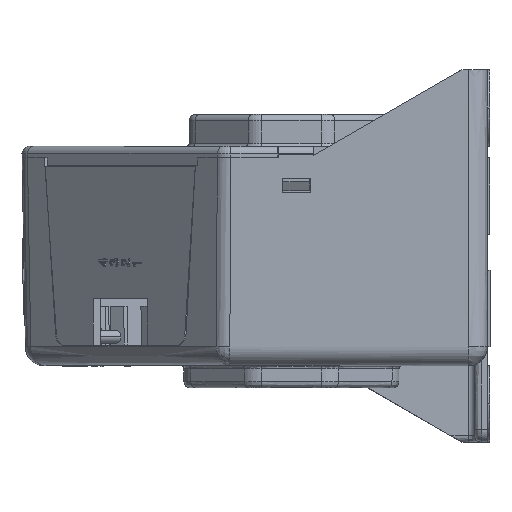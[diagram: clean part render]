
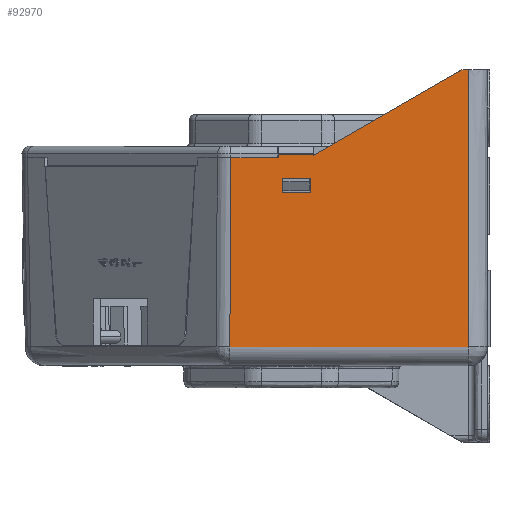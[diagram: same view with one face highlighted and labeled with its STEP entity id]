
A CAD part, left-side view. The second image highlights one B-rep face of the part: STEP entity #92970.
In plain terms, the highlighted planar face has unit normal (-1, 0, -0.018) as drawn and (0.707, -0.017, 0.707) by its records, which use the part's own axes.
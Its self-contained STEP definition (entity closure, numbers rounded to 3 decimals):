
#55170=CARTESIAN_POINT('',(21.608,15.4,
-1.333));
#55180=DIRECTION('',(0.,1.,0.));
#55190=DIRECTION('',(-0.707,0.,
-0.707));
#55200=AXIS2_PLACEMENT_3D('',#55170,#55180,#55190);
#55210=CYLINDRICAL_SURFACE('',#55200,3.);
#55410=CARTESIAN_POINT('',(21.608,15.4,
-1.333));
#55420=DIRECTION('',(0.,1.,0.));
#55430=DIRECTION('',(-0.707,0.,
-0.707));
#55440=AXIS2_PLACEMENT_3D('',#55410,#55420,#55430);
#55450=CIRCLE('',#55440,3.);
#57240=CARTESIAN_POINT('',(23.729,15.4,
0.789));
#57250=VERTEX_POINT('',#57240);
#57280=CARTESIAN_POINT('',(23.208,-17.252,
0.504));
#57290=DIRECTION('',(-0.016,-1.,
-0.009));
#57300=VECTOR('',#57290,1.);
#57310=LINE('',#57280,#57300);
#57320=CARTESIAN_POINT('',(23.256,-14.252,
0.53));
#57330=VERTEX_POINT('',#57320);
#57340=EDGE_CURVE('',#57250,#57330,#57310,.T.);
#89670=CARTESIAN_POINT('',(29.045,15.979,
-4.513));
#89680=VERTEX_POINT('',#89670);
#89710=CARTESIAN_POINT('',(28.635,-17.2,
-4.922));
#89720=DIRECTION('',(-0.012,-1.,
-0.012));
#89730=VECTOR('',#89720,1.);
#89740=LINE('',#89710,#89730);
#89750=CARTESIAN_POINT('',(29.038,15.4,
-4.52));
#89760=VERTEX_POINT('',#89750);
#89770=EDGE_CURVE('',#89680,#89760,#89740,.T.);
#90240=CARTESIAN_POINT('',(32.524,-17.2,
-8.811));
#90250=DIRECTION('',(0.012,1.,
0.012));
#90260=VECTOR('',#90250,1.);
#90270=LINE('',#90240,#90260);
#90280=CARTESIAN_POINT('',(32.931,15.777,
-8.404));
#90290=VERTEX_POINT('',#90280);
#90300=CARTESIAN_POINT('',(32.934,15.979,
-8.402));
#90310=VERTEX_POINT('',#90300);
#90320=EDGE_CURVE('',#90290,#90310,#90270,.T.);
#91510=CARTESIAN_POINT('',(32.498,12.2,
-8.06));
#91520=VERTEX_POINT('',#91510);
#91550=CARTESIAN_POINT('',(32.135,-17.2,
-8.423));
#91560=DIRECTION('',(0.012,1.,
0.012));
#91570=VECTOR('',#91560,1.);
#91580=LINE('',#91550,#91570);
#91590=CARTESIAN_POINT('',(32.471,10.,
-8.087));
#91600=VERTEX_POINT('',#91590);
#91610=EDGE_CURVE('',#91600,#91520,#91580,.T.);
#91730=CARTESIAN_POINT('',(45.711,12.172,
-21.273));
#91740=DIRECTION('',(0.707,-0.017,
0.707));
#91750=DIRECTION('',(0.707,0.,
-0.707));
#91760=AXIS2_PLACEMENT_3D('',#91730,#91740,#91750);
#91770=PLANE('',#91760);
#91780=CARTESIAN_POINT('',(30.086,-14.252,
-6.3));
#91790=DIRECTION('',(0.707,0.,
-0.707));
#91800=VECTOR('',#91790,1.);
#91810=LINE('',#91780,#91800);
#91820=CARTESIAN_POINT('',(49.709,-14.252,
-25.923));
#91830=VERTEX_POINT('',#91820);
#91840=EDGE_CURVE('',#57330,#91830,#91810,.T.);
#91850=ORIENTED_EDGE('',*,*,#91840,.T.);
#91860=ORIENTED_EDGE('',*,*,#57340,.T.);
#91870=CARTESIAN_POINT('',(23.729,15.4,
0.789));
#91880=VERTEX_POINT('',#91870);
#91890=EDGE_CURVE('',#57250,#91880,#55450,.T.);
#91900=ORIENTED_EDGE('',*,*,#91890,.F.);
#91910=CARTESIAN_POINT('',(23.729,15.4,
0.789));
#91920=CARTESIAN_POINT('',(23.729,15.4,
0.789));
#91930=CARTESIAN_POINT('',(23.729,15.4,
0.789));
#91940=CARTESIAN_POINT('',(23.729,15.4,
0.789));
#91950=CARTESIAN_POINT('',(23.729,15.4,
0.789));
#91960=CARTESIAN_POINT('',(23.729,15.4,
0.789));
#91970=CARTESIAN_POINT('',(23.729,15.4,
0.789));
#91980=CARTESIAN_POINT('',(23.729,15.4,
0.789));
#91990=CARTESIAN_POINT('',(23.729,15.4,
0.789));
#92000=CARTESIAN_POINT('',(23.729,15.4,
0.789));
#92010=CARTESIAN_POINT('',(23.729,15.4,
0.789));
#92020=CARTESIAN_POINT('',(23.729,15.4,
0.789));
#92030=CARTESIAN_POINT('',(23.729,15.4,
0.789));
#92040=B_SPLINE_CURVE_WITH_KNOTS('',3,(#91910,#91920,#91930,#91940,
#91950,#91960,#91970,#91980,#91990,#92000,#92010,#92020,#92030),
.UNSPECIFIED.,.F.,.F.,(4,3,3,3,4),(0.,0.,
0.,0.,0.),
.UNSPECIFIED.);
#92050=SURFACE_CURVE('',#92040,(#91770,#55210),.CURVE_3D.);
#92060=CARTESIAN_POINT('',(23.729,15.4,
0.789));
#92070=VERTEX_POINT('',#92060);
#92080=EDGE_CURVE('',#92070,#91880,#92050,.T.);
#92090=ORIENTED_EDGE('',*,*,#92080,.T.);
#92100=CARTESIAN_POINT('',(0.,15.4,24.518));
#92110=DIRECTION('',(-0.707,0.,
0.707));
#92120=VECTOR('',#92110,1.);
#92130=LINE('',#92100,#92120);
#92140=CARTESIAN_POINT('',(28.932,15.4,
-4.414));
#92150=VERTEX_POINT('',#92140);
#92160=EDGE_CURVE('',#92150,#92070,#92130,.T.);
#92170=ORIENTED_EDGE('',*,*,#92160,.T.);
#92180=CARTESIAN_POINT('',(30.452,15.4,
-5.934));
#92190=DIRECTION('',(-0.707,0.,
0.707));
#92200=VECTOR('',#92190,1.);
#92210=LINE('',#92180,#92200);
#92220=EDGE_CURVE('',#89760,#92150,#92210,.T.);
#92230=ORIENTED_EDGE('',*,*,#92220,.T.);
#92240=ORIENTED_EDGE('',*,*,#89770,.T.);
#92250=CARTESIAN_POINT('',(30.459,15.979,
-5.927));
#92260=DIRECTION('',(-0.707,0.,
0.707));
#92270=VECTOR('',#92260,1.);
#92280=LINE('',#92250,#92270);
#92290=EDGE_CURVE('',#90310,#89680,#92280,.T.);
#92300=ORIENTED_EDGE('',*,*,#92290,.T.);
#92310=ORIENTED_EDGE('',*,*,#90320,.T.);
#92320=CARTESIAN_POINT('',(30.432,13.756,
-5.954));
#92330=DIRECTION('',(-0.619,-0.5,
0.606));
#92340=VECTOR('',#92330,1.);
#92350=LINE('',#92320,#92340);
#92360=CARTESIAN_POINT('',(49.537,29.2,
-24.679));
#92370=VERTEX_POINT('',#92360);
#92380=EDGE_CURVE('',#92370,#90290,#92350,.T.);
#92390=ORIENTED_EDGE('',*,*,#92380,.T.);
#92400=CARTESIAN_POINT('',(30.622,29.2,
-5.764));
#92410=DIRECTION('',(0.707,0.,
-0.707));
#92420=VECTOR('',#92410,1.);
#92430=LINE('',#92400,#92420);
#92440=CARTESIAN_POINT('',(50.245,29.2,
-25.387));
#92450=VERTEX_POINT('',#92440);
#92460=EDGE_CURVE('',#92370,#92450,#92430,.T.);
#92470=ORIENTED_EDGE('',*,*,#92460,.F.);
#92480=CARTESIAN_POINT('',(49.672,-17.252,
-25.96));
#92490=DIRECTION('',(-0.012,-1.,
-0.012));
#92500=VECTOR('',#92490,1.);
#92510=LINE('',#92480,#92500);
#92520=CARTESIAN_POINT('',(49.709,-14.252,
-25.923));
#92530=VERTEX_POINT('',#92520);
#92540=EDGE_CURVE('',#92450,#92530,#92510,.T.);
#92550=ORIENTED_EDGE('',*,*,#92540,.F.);
#92560=CARTESIAN_POINT('',(49.709,-14.252,
-25.923));
#92570=CARTESIAN_POINT('',(49.709,-14.252,
-25.923));
#92580=CARTESIAN_POINT('',(49.709,-14.252,
-25.923));
#92590=CARTESIAN_POINT('',(49.709,-14.252,
-25.923));
#92600=CARTESIAN_POINT('',(49.709,-14.252,
-25.923));
#92610=CARTESIAN_POINT('',(49.709,-14.252,
-25.923));
#92620=CARTESIAN_POINT('',(49.709,-14.252,
-25.923));
#92630=CARTESIAN_POINT('',(49.709,-14.252,
-25.923));
#92640=CARTESIAN_POINT('',(49.709,-14.252,
-25.923));
#92650=CARTESIAN_POINT('',(49.709,-14.252,
-25.923));
#92660=CARTESIAN_POINT('',(49.709,-14.252,
-25.923));
#92670=B_SPLINE_CURVE_WITH_KNOTS('',3,(#92560,#92570,#92580,#92590,
#92600,#92610,#92620,#92630,#92640,#92650,#92660),.UNSPECIFIED.,.F.,.F.,
(4,2,3,2,4),(0.,0.01,0.013,0.016
,0.026),.UNSPECIFIED.);
#92680=EDGE_CURVE('',#91830,#92530,#92670,.T.);
#92690=ORIENTED_EDGE('',*,*,#92680,.T.);
#92700=EDGE_LOOP('',(#92690,#92550,#92470,#92390,#92310,#92300,#92240,
#92230,#92170,#92090,#91900,#91860,#91850));
#92710=FACE_OUTER_BOUND('',#92700,.T.);
#92720=CARTESIAN_POINT('',(30.412,12.2,
-5.974));
#92730=DIRECTION('',(-0.707,0.,
0.707));
#92740=VECTOR('',#92730,1.);
#92750=LINE('',#92720,#92740);
#92760=CARTESIAN_POINT('',(29.387,12.2,
-4.948));
#92770=VERTEX_POINT('',#92760);
#92780=EDGE_CURVE('',#91520,#92770,#92750,.T.);
#92790=ORIENTED_EDGE('',*,*,#92780,.F.);
#92800=CARTESIAN_POINT('',(29.024,-17.2,
-5.311));
#92810=DIRECTION('',(-0.012,-1.,
-0.012));
#92820=VECTOR('',#92810,1.);
#92830=LINE('',#92800,#92820);
#92840=CARTESIAN_POINT('',(29.36,10.,
-4.976));
#92850=VERTEX_POINT('',#92840);
#92860=EDGE_CURVE('',#92770,#92850,#92830,.T.);
#92870=ORIENTED_EDGE('',*,*,#92860,.F.);
#92880=CARTESIAN_POINT('',(30.385,10.,
-6.001));
#92890=DIRECTION('',(-0.707,0.,
0.707));
#92900=VECTOR('',#92890,1.);
#92910=LINE('',#92880,#92900);
#92920=EDGE_CURVE('',#91600,#92850,#92910,.T.);
#92930=ORIENTED_EDGE('',*,*,#92920,.T.);
#92940=ORIENTED_EDGE('',*,*,#91610,.F.);
#92950=EDGE_LOOP('',(#92940,#92930,#92870,#92790));
#92960=FACE_BOUND('',#92950,.T.);
#92970=ADVANCED_FACE('',(#92710,#92960),#91770,.T.);
